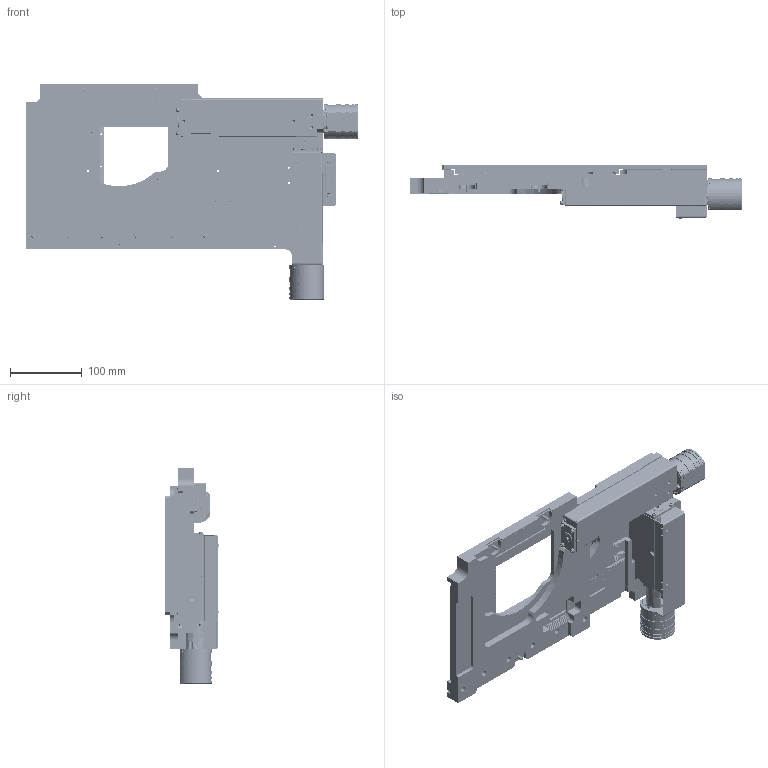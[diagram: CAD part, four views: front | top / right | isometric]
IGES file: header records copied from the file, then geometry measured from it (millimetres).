
Start section: SolidWorks IGES file using analytic representation for surfaces
Global section: file name: C:\1-DATA-FILES-FOR-PROJECTS\2022-PRODUCT-REFERENCE-MODELS\6-SECOND-BATCH-STAGES\20-H117P2L2\2-H117P2L2-REFERENCE-PARTS\H117P2L2-REFERENCE-IGES.IGS; native system: SolidWorks 2019; preprocessor: SolidWorks 2019; author: jwilliams; date: 220218.111111; units: inch
Bounding box: 463.3 x 74.7 x 300.2 mm (x, y, z)
Surface area: 677839.6 mm2 (no closed solid volume)
Topology: 0 solids, 0 shells, 5935 faces, 70973 edges, 70807 vertices
Faces by surface type: bspline 3456, revolution 2479
